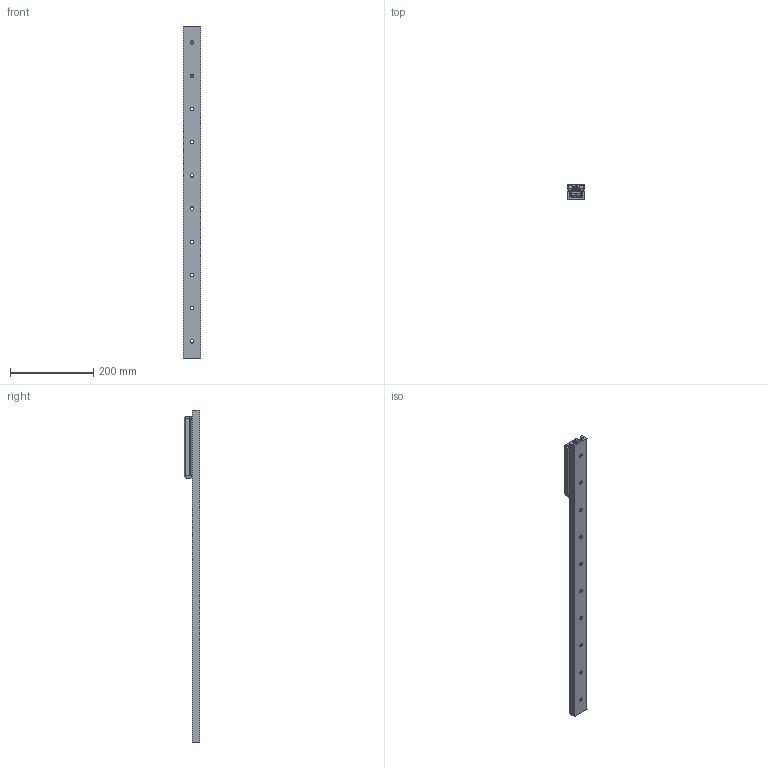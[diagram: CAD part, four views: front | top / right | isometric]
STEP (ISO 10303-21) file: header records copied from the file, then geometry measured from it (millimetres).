
FILE_DESCRIPTION( ( 'STEP AP214' ), '1' );
FILE_NAME( 'p:/temp/worker_54/temp/exporttempdir_3164_690_e0jOv/format_0/TGV-00800_1_RV43G-3.stp', '2021-06-09T18:23:01', ( 'License CC BY-ND 4.0' ), ( 'CADENAS' ), ' ', 'PARTsolutions', ' ' );
FILE_SCHEMA( ( 'AUTOMOTIVE_DESIGN { 1 0 10303 214 1 1 1 1 }' ) );
Length unit declared in the file: millimetre
Products named in the file (6): TGV-00800/1/RV43G-3; _TGV43-0800-(3-1); _RVG43-3-slider; _RGNV43R; _RGAV43R; _WR43G-01
Assembly tree (7 placements, depth 2):
  TGV-00800/1/RV43G-3
    _TGV43-0800-(3-1)
    _RVG43-3-slider
    _RGNV43R  x2
    _RGAV43R
    _WR43G-01  x2
Bounding box: 43 x 37 x 800 mm (x, y, z)
Volume: 413873.9 mm3; surface area: 165308.6 mm2
Topology: 7 solids, 7 shells, 1061 faces, 2774 edges, 1809 vertices
Faces by surface type: plane 663, cylinder 306, cone 49, bspline 34, torus 9
Full cylindrical faces by diameter (mm): 1.76 x4, 3 x8, 6 x4, 6.647 x4, 6.8 x3, 8 x3, 8.5 x10, 11 x11, 15 x6, 15.5 x1, 18.98 x2, 19 x1, 31.4 x6
Entity records: 25193 total; most frequent: CARTESIAN_POINT 4006, DIRECTION 3367, ORIENTED_EDGE 3124, EDGE_CURVE 1562, AXIS2_PLACEMENT_3D 1280, VERTEX_POINT 1081, EDGE_LOOP 857, LINE 807
